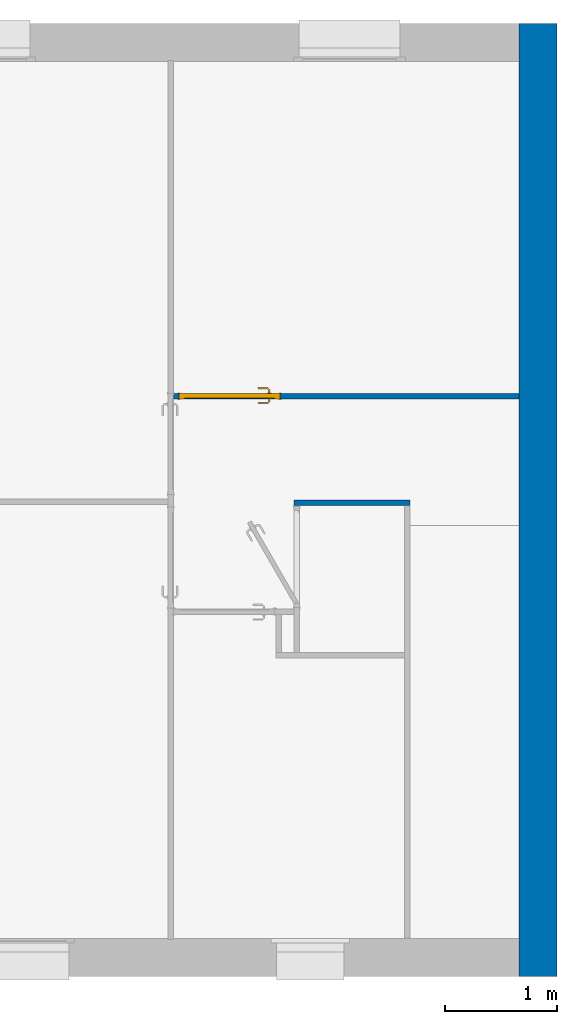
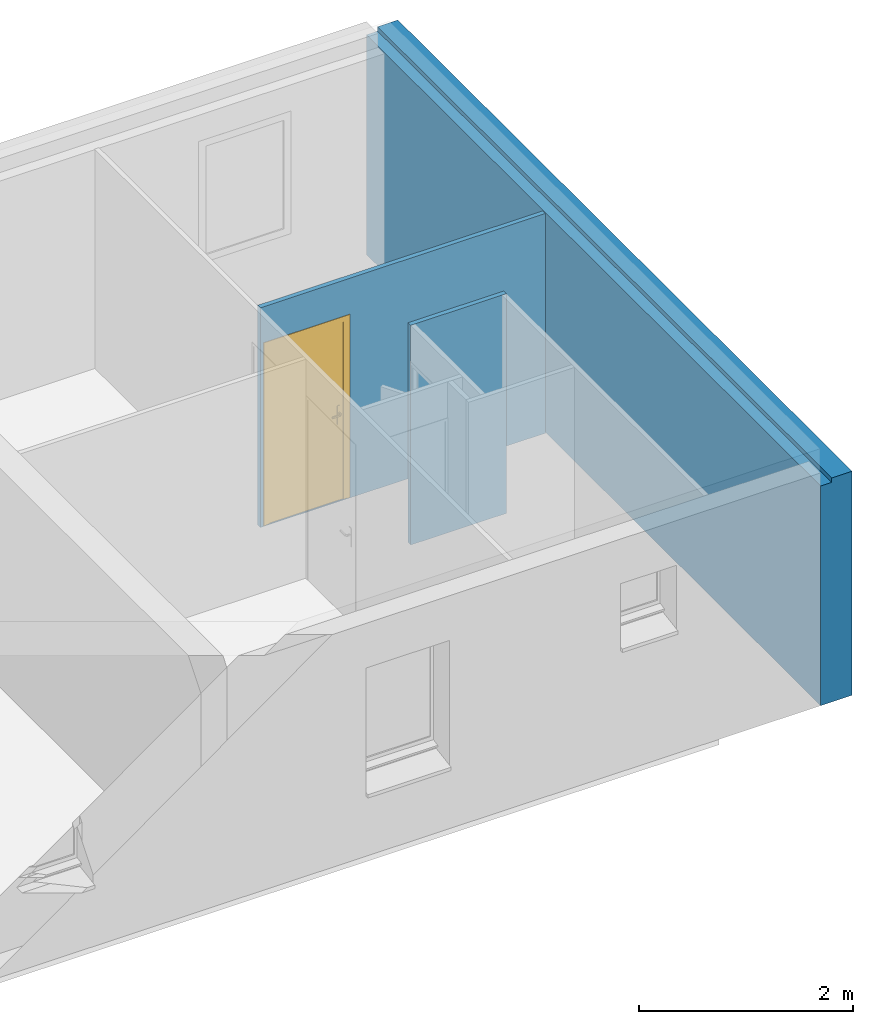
# One storey, part 10 of 13: 3 walls, 1 door, 1 opening.
"""IFC2X3 building model written with IfcOpenShell, lengths in metres."""

from ifc_helpers import new_model, entity, si_unit, converted_unit, derived_unit, direction, frame, frame_2d, origin, place, context, subcontext, project, spatial, polyline, rectangle, extrude, clip, bounded_halfspace, faceted_brep, source, transform, mapped, material, material_list, layer, layer_set, layer_usage, type_object, type_shapes, element, fill, save


model = new_model("IFC2X3")

# Units and contexts
model_context = context("Model", 3, precision=1e-05, world=origin(), true_north=direction((6.12303176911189e-17, 1.0)))
body_context = subcontext(model_context, "Body", "Model", "MODEL_VIEW")
ifc_project = project(units=[si_unit("LENGTHUNIT", "METRE"), si_unit("AREAUNIT", "SQUARE_METRE"), si_unit("VOLUMEUNIT", "CUBIC_METRE"), converted_unit("PLANEANGLEUNIT", "DEGREE", entity("IfcRatioMeasure", 0.0174532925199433), si_unit("PLANEANGLEUNIT", "RADIAN"), dimensions=[0, 0, 0, 0, 0, 0, 0]), si_unit("MASSUNIT", "GRAM", prefix="KILO"), si_unit("TIMEUNIT", "SECOND"), si_unit("FREQUENCYUNIT", "HERTZ"), si_unit("THERMODYNAMICTEMPERATUREUNIT", "DEGREE_CELSIUS"), derived_unit("THERMALTRANSMITTANCEUNIT", [(si_unit("MASSUNIT", "GRAM", prefix="KILO"), 1), (si_unit("THERMODYNAMICTEMPERATUREUNIT", "KELVIN"), -1), (si_unit("TIMEUNIT", "SECOND"), -3)]), derived_unit("VOLUMETRICFLOWRATEUNIT", [(si_unit("LENGTHUNIT", "METRE"), 3), (si_unit("TIMEUNIT", "SECOND"), -1)]), si_unit("ELECTRICCURRENTUNIT", "AMPERE"), si_unit("ELECTRICVOLTAGEUNIT", "VOLT"), si_unit("POWERUNIT", "WATT"), si_unit("FORCEUNIT", "NEWTON", prefix="KILO"), si_unit("ILLUMINANCEUNIT", "LUX"), si_unit("LUMINOUSFLUXUNIT", "LUMEN"), si_unit("LUMINOUSINTENSITYUNIT", "CANDELA"), derived_unit("USERDEFINED", [(si_unit("MASSUNIT", "GRAM", prefix="KILO"), -1), (si_unit("LENGTHUNIT", "METRE"), -2), (si_unit("TIMEUNIT", "SECOND"), 3), (si_unit("LUMINOUSFLUXUNIT", "LUMEN"), 1)]), derived_unit("LINEARVELOCITYUNIT", [(si_unit("LENGTHUNIT", "METRE"), 1), (si_unit("TIMEUNIT", "SECOND"), -1)]), si_unit("PRESSUREUNIT", "PASCAL"), derived_unit("USERDEFINED", [(si_unit("LENGTHUNIT", "METRE"), -2), (si_unit("MASSUNIT", "GRAM", prefix="KILO"), 1), (si_unit("TIMEUNIT", "SECOND"), -2)])], contexts=[model_context])

# Site, building, storey
site_placement = place(None, origin())
site = spatial("IfcSite", under=ifc_project, at=site_placement, Name="Surface", CompositionType="ELEMENT")
building_placement = place(site_placement, origin())
building = spatial("IfcBuilding", under=site, at=building_placement, CompositionType="ELEMENT")
storey_placement = place(building_placement, frame((0.0, 0.0, 2.74)))
storey = spatial("IfcBuildingStorey", under=building, at=storey_placement, Name="Plan étage", CompositionType="ELEMENT", Elevation=2.74)

# Wall, opening, door
ifc_material_1 = material(Name="Maçonnerie - Isolant(1)")
ifc_layer_1 = layer(ifc_material_1, 0.05)
ifc_layer_set_1 = layer_set([ifc_layer_1], Name="Mur de base:Int. plâtre 50 mm")
ifc_layer_usage_1 = layer_usage(ifc_layer_set_1, "AXIS2", "NEGATIVE", 0.025)
wall_type_1 = type_object("IfcWallType", Name="Mur de base:Int. plâtre 50 mm", PredefinedType="STANDARD", material=ifc_layer_set_1)
wall_1_placement = place(storey_placement, frame((-1.65608881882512, 2.35925578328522, -0.00999999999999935)))
wall_1 = element("IfcWallStandardCase", 1, at=wall_1_placement, inside=storey, type_object=wall_type_1, material=ifc_layer_usage_1, Name="Mur de base:Int. plâtre 50 mm", ObjectType="Mur de base:Int. plâtre 50 mm", context=body_context, shape_type="SweptSolid", body=[
    extrude(rectangle(XDim=3.07999999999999, YDim=0.05, at=frame_2d((1.53999999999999, 0.0), x_axis=(-1.0, 0.0))), origin(), (0.0, 0.0, 1.0), 2.51),
])
opening_placement = place(wall_1_placement, frame((0.0499999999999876, -0.025, 0.00999999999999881)))
opening = element("IfcOpeningElement", 2, at=opening_placement, cuts=wall_1, Name="Int. Simple:PP (0.83m x 2.04m):1", ObjectType="Opening", context=body_context, shape_type="SweptSolid", body=[
    extrude(rectangle(XDim=2.075, YDim=0.9, at=frame_2d((1.0375, 0.45), x_axis=(1.0, 0.0))), frame((0.0, 0.0, 0.0), z_axis=(0.0, 1.0, 0.0), x_axis=(0.0, 0.0, 1.0)), (0.0, 0.0, 1.0), 0.05),
])
ifc_material_2 = material(Name="Finition Peinture - Blanc satiné")
ifc_material_3 = material(Name="Bois - Panneau de porte")
ifc_material_4 = material(Name="Bois - Cadre de porte")
ifc_material_list_1 = material_list([ifc_material_2, ifc_material_3, ifc_material_4])
ifc_material_list_2 = material_list([ifc_material_2, ifc_material_3, ifc_material_4])
door_style = type_object("IfcDoorStyle", Name="PP (0.83m x 2.04m)", ConstructionType="NOTDEFINED", OperationType="SINGLE_SWING_LEFT", ParameterTakesPrecedence=False, Sizeable=False, material=ifc_material_list_2)
shared_shape = source(origin(), body_context, "Body", "Brep", [
    faceted_brep([(0.105352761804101, -0.00500000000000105, 0.866003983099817), (0.115, -0.00500000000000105, 0.870000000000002), (0.114999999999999, -0.00500000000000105, 1.08), (0.1053527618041, -0.00500000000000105, 1.08399601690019), (0.0949999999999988, -0.00500000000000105, 1.08535898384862), (0.0846472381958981, -0.00500000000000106, 1.08399601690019), (0.0749999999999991, -0.00500000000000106, 1.08), (0.0750000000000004, -0.00500000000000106, 0.870000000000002), (0.0846472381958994, -0.00500000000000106, 0.866003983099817), (0.0950000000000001, -0.00500000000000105, 0.86464101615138), (0.1053527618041, 0.0, 1.08399601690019), (0.114999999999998, 0.0, 1.08), (0.115, 0.0, 0.870000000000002), (0.105352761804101, 0.0, 0.866003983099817), (0.0950000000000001, 0.0, 0.86464101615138), (0.0846472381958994, 0.0, 0.866003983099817), (0.0749999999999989, 0.0, 0.870000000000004), (0.0749999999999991, 0.0, 1.08), (0.0846472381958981, 0.0, 1.08399601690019), (0.0949999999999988, 0.0, 1.08535898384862)], [[[0, 1, 2, 3, 4, 5, 6, 7, 8, 9]], [[10, 11, 12, 13, 14, 15, 16, 17, 18, 19]], [[16, 15, 8, 7]], [[8, 15, 14, 9]], [[14, 13, 0, 9]], [[13, 12, 1, 0]], [[2, 1, 12, 11]], [[11, 10, 3, 2]], [[3, 10, 19, 4]], [[19, 18, 5, 4]], [[18, 17, 6, 5]], [[7, 6, 17, 16]]]),
    faceted_brep([(0.105352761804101, 0.0399999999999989, 0.866003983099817), (0.115, 0.0399999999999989, 0.870000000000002), (0.114999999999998, 0.0399999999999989, 1.08), (0.105352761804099, 0.0399999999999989, 1.08399601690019), (0.0949999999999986, 0.0399999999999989, 1.08535898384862), (0.084647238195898, 0.0399999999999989, 1.08399601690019), (0.0749999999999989, 0.0399999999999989, 1.08), (0.0750000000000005, 0.0399999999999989, 0.870000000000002), (0.0846472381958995, 0.0399999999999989, 0.866003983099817), (0.0950000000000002, 0.0399999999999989, 0.86464101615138), (0.105352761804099, 0.0449999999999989, 1.08399601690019), (0.114999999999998, 0.0449999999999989, 1.08), (0.115, 0.0449999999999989, 0.870000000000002), (0.105352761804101, 0.0449999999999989, 0.866003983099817), (0.0950000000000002, 0.0449999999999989, 0.86464101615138), (0.0846472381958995, 0.0449999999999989, 0.866003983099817), (0.0749999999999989, 0.0449999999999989, 0.870000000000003), (0.0749999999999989, 0.0449999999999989, 1.08), (0.084647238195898, 0.0449999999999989, 1.08399601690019), (0.0949999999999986, 0.0449999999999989, 1.08535898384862)], [[[0, 1, 2, 3, 4, 5, 6, 7, 8, 9]], [[10, 11, 12, 13, 14, 15, 16, 17, 18, 19]], [[11, 10, 3, 2]], [[3, 10, 19, 4]], [[19, 18, 5, 4]], [[18, 17, 6, 5]], [[7, 6, 17, 16]], [[16, 15, 8, 7]], [[8, 15, 14, 9]], [[14, 13, 0, 9]], [[13, 12, 1, 0]], [[2, 1, 12, 11]]]),
    faceted_brep([(0.0929747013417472, -0.00500000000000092, 1.00778044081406), (0.0970252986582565, -0.0050000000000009, 1.00778044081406), (0.101000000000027, -0.00500000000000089, 1.00699999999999), (0.101000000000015, -0.00500000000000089, 0.993000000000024), (0.0970252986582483, -0.0050000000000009, 0.992219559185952), (0.0929747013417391, -0.00500000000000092, 0.99221955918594), (0.0889999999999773, -0.00500000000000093, 0.992999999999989), (0.0889999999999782, -0.00500000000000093, 1.007), (0.0889999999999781, -0.0326509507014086, 1.007), (0.092974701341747, -0.0310045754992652, 1.00778044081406), (0.10902358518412, -0.0470534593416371, 1.00778044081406), (0.110701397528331, -0.0430028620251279, 1.00778044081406), (0.0970252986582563, -0.0293267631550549, 1.00778044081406), (0.101000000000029, -0.0276803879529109, 1.007), (0.101000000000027, -0.0276803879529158, 0.993000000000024), (0.0970252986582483, -0.0293267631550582, 0.992219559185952), (0.110701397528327, -0.0430028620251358, 0.992219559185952), (0.109023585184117, -0.047053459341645, 0.99221955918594), (0.0929747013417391, -0.0310045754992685, 0.99221955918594), (0.0889999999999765, -0.0326509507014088, 0.992999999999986), (0.107377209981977, -0.0510281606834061, 1.007), (0.112347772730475, -0.0390281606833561, 1.007), (0.112347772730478, -0.0390281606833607, 0.993000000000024), (0.107377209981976, -0.0510281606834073, 0.992999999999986), (0.195018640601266, -0.0510281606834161, 0.992999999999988), (0.195018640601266, -0.0470534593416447, 0.99221955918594), (0.195018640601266, -0.0430028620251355, 0.992219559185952), (0.195018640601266, -0.039028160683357, 0.993000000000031), (0.195018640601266, -0.0390281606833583, 1.007), (0.195018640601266, -0.0430028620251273, 1.00778044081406), (0.195018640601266, -0.0470534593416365, 1.00778044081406), (0.195018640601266, -0.0510281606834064, 1.00699999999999), (0.147307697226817, -0.0510281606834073, 1.007), (0.152860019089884, -0.045028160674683, 1.0078786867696), (0.15368320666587, -0.039028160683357, 1.007), (0.153683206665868, -0.0390281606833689, 0.993000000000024), (0.152860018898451, -0.0450281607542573, 0.992121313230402), (0.147307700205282, -0.0510281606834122, 0.992999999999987)], [[[0, 1, 2, 3, 4, 5, 6, 7]], [[8, 9, 0, 7]], [[9, 10, 11, 12, 1, 0]], [[12, 13, 2, 1]], [[3, 2, 13, 14]], [[14, 15, 4, 3]], [[15, 16, 17, 18, 5, 4]], [[18, 19, 6, 5]], [[7, 6, 19, 8]], [[20, 10, 9, 8]], [[11, 21, 13, 12]], [[14, 13, 21, 22]], [[22, 16, 15, 14]], [[17, 23, 19, 18]], [[8, 19, 23, 20]], [[24, 25, 26, 27, 28, 29, 30, 31]], [[32, 30, 33]], [[31, 30, 32]], [[10, 20, 32]], [[33, 34, 11]], [[21, 11, 34]], [[34, 29, 28]], [[30, 29, 33]], [[29, 34, 33]], [[10, 32, 33]], [[10, 33, 11]], [[22, 21, 34, 28, 27, 35]], [[35, 26, 36]], [[37, 36, 25]], [[22, 35, 16]], [[35, 27, 26]], [[24, 37, 25]], [[23, 17, 37]], [[37, 17, 36]], [[17, 16, 36]], [[16, 35, 36]], [[25, 36, 26]], [[20, 23, 37, 24, 31, 32]]]),
    faceted_brep([(0.0929747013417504, 0.0449999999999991, 1.00778044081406), (0.0889999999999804, 0.044999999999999, 1.007), (0.0889999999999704, 0.044999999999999, 0.992999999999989), (0.0929747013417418, 0.0449999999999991, 0.99221955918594), (0.0970252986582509, 0.0449999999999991, 0.992219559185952), (0.10100000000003, 0.0449999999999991, 0.993000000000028), (0.101000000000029, 0.0449999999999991, 1.007), (0.0970252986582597, 0.0449999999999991, 1.00778044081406), (0.10100000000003, 0.067485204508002, 0.993000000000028), (0.10100000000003, 0.0674852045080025, 1.007), (0.0970252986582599, 0.0691315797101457, 1.00778044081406), (0.110838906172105, 0.0829451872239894, 1.00778044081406), (0.109161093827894, 0.0869957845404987, 1.00778044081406), (0.0929747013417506, 0.070809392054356, 1.00778044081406), (0.0889999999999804, 0.0724557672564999, 1.007), (0.0889999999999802, 0.072455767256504, 0.992999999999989), (0.0929747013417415, 0.0708093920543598, 0.99221955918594), (0.109161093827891, 0.0869957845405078, 0.99221955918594), (0.110838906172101, 0.0829451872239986, 0.992219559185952), (0.0970252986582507, 0.0691315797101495, 0.992219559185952), (0.112485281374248, 0.0789704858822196, 0.993000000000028), (0.112485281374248, 0.0789704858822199, 1.007), (0.107514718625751, 0.0909704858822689, 1.007), (0.107514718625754, 0.090970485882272, 0.992999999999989), (0.195045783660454, 0.0789704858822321, 0.993000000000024), (0.195045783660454, 0.0829451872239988, 0.992219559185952), (0.195045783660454, 0.086995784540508, 0.99221955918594), (0.195045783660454, 0.0909704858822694, 0.992999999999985), (0.195045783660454, 0.0909704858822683, 1.007), (0.195045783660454, 0.0869957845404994, 1.00778044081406), (0.195045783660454, 0.0829451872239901, 1.00778044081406), (0.195045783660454, 0.0789704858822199, 1.007), (0.153765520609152, 0.0789704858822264, 0.993000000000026), (0.153765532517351, 0.0789704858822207, 1.007), (0.152942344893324, 0.0849704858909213, 1.0078786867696), (0.147445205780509, 0.0909704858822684, 1.007), (0.147445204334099, 0.0909704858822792, 0.992999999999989), (0.152942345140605, 0.0849704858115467, 0.992121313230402)], [[[0, 1, 2, 3, 4, 5, 6, 7]], [[6, 5, 8, 9]], [[9, 10, 7, 6]], [[10, 11, 12, 13, 0, 7]], [[13, 14, 1, 0]], [[2, 1, 14, 15]], [[15, 16, 3, 2]], [[16, 17, 18, 19, 4, 3]], [[19, 8, 5, 4]], [[9, 8, 20, 21]], [[21, 11, 10, 9]], [[12, 22, 14, 13]], [[15, 14, 22, 23]], [[23, 17, 16, 15]], [[18, 20, 8, 19]], [[24, 25, 26, 27, 28, 29, 30, 31]], [[21, 20, 32, 24, 31, 33]], [[33, 30, 34]], [[35, 34, 29]], [[21, 33, 11]], [[33, 31, 30]], [[28, 35, 29]], [[22, 12, 35]], [[35, 12, 34]], [[12, 11, 34]], [[11, 33, 34]], [[29, 34, 30]], [[22, 35, 28, 27, 36, 23]], [[36, 26, 37]], [[27, 26, 36]], [[17, 23, 36]], [[37, 32, 18]], [[20, 18, 32]], [[32, 25, 24]], [[26, 25, 37]], [[25, 32, 37]], [[17, 36, 37]], [[17, 37, 18]]]),
    faceted_brep([(0.034999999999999, 0.04, 2.04), (0.865, 0.04, 2.04), (0.864999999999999, 0.04, 0.0), (0.034999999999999, 0.04, 0.0), (0.034999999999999, 0.0, 2.04), (0.034999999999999, 0.0, 0.0), (0.864999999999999, 0.0, 0.0), (0.865, 0.0, 2.04)], [[[0, 1, 2, 3]], [[4, 5, 6, 7]], [[1, 0, 4, 7]], [[2, 1, 7, 6]], [[3, 2, 6, 5]], [[0, 3, 5, 4]]]),
    faceted_brep([(0.0, 0.0, 0.0), (0.0, 0.050000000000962, 0.0), (0.0499999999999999, 0.050000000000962, 0.0), (0.0499999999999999, 0.040000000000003, 0.0), (0.0349999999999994, 0.040000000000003, 0.0), (0.0349999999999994, 0.0, 0.0), (0.0, 0.0, 2.07500000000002), (0.0, 0.050000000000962, 2.07500000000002), (0.900000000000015, 0.050000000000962, 2.07500000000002), (0.900000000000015, 0.050000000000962, 0.0), (0.85, 0.050000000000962, 0.0), (0.85, 0.050000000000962, 2.025), (0.0500000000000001, 0.050000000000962, 2.025), (0.05, 0.040000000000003, 2.025), (0.85, 0.040000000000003, 2.025), (0.85, 0.040000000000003, 0.0), (0.865, 0.040000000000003, 0.0), (0.865, 0.040000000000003, 2.04), (0.0349999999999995, 0.040000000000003, 2.04), (0.0349999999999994, 0.0, 2.04), (0.865, 0.0, 2.04), (0.865, 0.0, 0.0), (0.900000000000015, 0.0, 0.0), (0.900000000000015, 0.0, 2.07500000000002)], [[[0, 1, 2, 3, 4, 5]], [[1, 0, 6, 7]], [[2, 1, 7, 8, 9, 10, 11, 12]], [[3, 2, 12, 13]], [[4, 3, 13, 14, 15, 16, 17, 18]], [[5, 4, 18, 19]], [[0, 5, 19, 20, 21, 22, 23, 6]], [[8, 23, 22, 9]], [[22, 21, 16, 15, 10, 9]], [[14, 11, 10, 15]], [[20, 17, 16, 21]], [[7, 6, 23, 8]], [[13, 12, 11, 14]], [[19, 18, 17, 20]]]),
    faceted_brep([(0.0149999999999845, 0.050000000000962, 0.0), (-0.0150000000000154, 0.050000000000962, 0.0), (-0.0150000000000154, 0.055000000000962, 0.0), (0.0149999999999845, 0.055000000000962, 0.0), (0.0149999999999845, 0.050000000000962, 2.06000000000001), (0.884999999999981, 0.050000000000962, 2.06000000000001), (0.88499999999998, 0.050000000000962, 0.0), (0.91499999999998, 0.050000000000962, 0.0), (0.91499999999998, 0.050000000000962, 2.09000000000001), (-0.0150000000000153, 0.050000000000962, 2.09000000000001), (-0.0150000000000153, 0.055000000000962, 2.09000000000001), (0.91499999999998, 0.055000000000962, 2.09000000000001), (0.91499999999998, 0.055000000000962, 0.0), (0.88499999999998, 0.055000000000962, 0.0), (0.88499999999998, 0.055000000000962, 2.06000000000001), (0.0149999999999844, 0.055000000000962, 2.06000000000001)], [[[0, 1, 2, 3]], [[1, 0, 4, 5, 6, 7, 8, 9]], [[2, 1, 9, 10]], [[3, 2, 10, 11, 12, 13, 14, 15]], [[0, 3, 15, 4]], [[6, 13, 12, 7]], [[5, 14, 13, 6]], [[11, 8, 7, 12]], [[10, 9, 8, 11]], [[4, 15, 14, 5]]]),
    faceted_brep([(-0.0150000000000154, -0.005, 0.0), (0.0149999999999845, -0.005, 0.0), (0.0149999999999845, -0.005, 2.06000000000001), (0.884999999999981, -0.005, 2.06000000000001), (0.88499999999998, -0.005, 0.0), (0.91499999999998, -0.005, 0.0), (0.91499999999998, -0.005, 2.09000000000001), (-0.0150000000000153, -0.005, 2.09000000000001), (-0.0150000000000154, 0.0, 0.0), (-0.0150000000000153, 0.0, 2.09000000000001), (0.0149999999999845, 0.0, 0.0), (0.91499999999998, 0.0, 2.09000000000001), (0.91499999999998, 0.0, 0.0), (0.88499999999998, 0.0, 0.0), (0.88499999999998, 0.0, 2.06000000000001), (0.0149999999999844, 0.0, 2.06000000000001)], [[[0, 1, 2, 3, 4, 5, 6, 7]], [[8, 0, 7, 9]], [[10, 8, 9, 11, 12, 13, 14, 15]], [[1, 10, 15, 2]], [[3, 14, 13, 4]], [[11, 6, 5, 12]], [[9, 7, 6, 11]], [[2, 15, 14, 3]], [[4, 13, 12, 5]], [[1, 0, 8, 10]]]),
])
type_shapes(door_style, [shared_shape])
door_placement = place(opening_placement, frame((0.9, 0.0500000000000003, 0.0), z_axis=(0.0, 0.0, 1.0), x_axis=(-1.0, 0.0, 0.0)))
door = element("IfcDoor", 3, at=door_placement, inside=storey, type_object=door_style, material=ifc_material_list_1, Name="Int. Simple:PP (0.83m x 2.04m)", ObjectType="PP (0.83m x 2.04m)", OverallHeight=2.075, OverallWidth=0.9, context=body_context, shape_type="MappedRepresentation", body=[
    mapped(shared_shape, transform((0.0, 0.0, 0.0), scale=1.0)),
])
fill(opening, door)

# Walls
ifc_layer_usage_2 = layer_usage(ifc_layer_set_1, "AXIS2", "NEGATIVE", 0.025)
wall_2_placement = place(storey_placement, frame((-0.581088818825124, 1.40925578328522, -0.00999999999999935)))
element("IfcWallStandardCase", 4, at=wall_2_placement, inside=storey, type_object=wall_type_1, material=ifc_layer_usage_2, Name="Mur de base:Int. plâtre 50 mm", ObjectType="Mur de base:Int. plâtre 50 mm", context=body_context, shape_type="SweptSolid", body=[
    extrude(rectangle(XDim=1.03499999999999, YDim=0.05, at=frame_2d((0.517499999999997, 0.0), x_axis=(-1.0, 0.0))), origin(), (0.0, 0.0, 1.0), 2.51),
])
ifc_material_5 = material(Name="Maçonnerie - Enduit")
ifc_layer_2 = layer(ifc_material_5, 0.02)
ifc_material_6 = material(Name="Maçonnerie - Parpaing")
ifc_layer_3 = layer(ifc_material_6, 0.2)
ifc_material_7 = material(Name="Maçonnerie - Isolant")
ifc_layer_4 = layer(ifc_material_7, 0.11)
ifc_material_8 = material(Name="Maçonnerie - Isolant 1")
ifc_layer_5 = layer(ifc_material_8, 0.01)
ifc_layer_set_2 = layer_set([ifc_layer_2, ifc_layer_3, ifc_layer_4, ifc_layer_5], Name="Mur de base:Mur de base Ext. Parpaing 20 + Isolant 12")
ifc_layer_usage_3 = layer_usage(ifc_layer_set_2, "AXIS2", "NEGATIVE", 0.17)
wall_type_2 = type_object("IfcWallType", Name="Mur de base:Mur de base Ext. Parpaing 20 + Isolant 12", PredefinedType="STANDARD", material=ifc_layer_set_2)
wall_3_placement = place(storey_placement, frame((1.59391118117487, 5.68425578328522, 0.0), z_axis=(0.0, 0.0, 1.0), x_axis=(0.0, -1.0, 0.0)))
element("IfcWallStandardCase", 5, at=wall_3_placement, inside=storey, type_object=wall_type_2, material=ifc_layer_usage_3, Name="Mur de base:Mur de base Ext. Parpaing 20 + Isolant 12", ObjectType="Mur de base:Mur de base Ext. Parpaing 20 + Isolant 12", context=body_context, shape_type="Clipping", body=[
    clip(extrude(rectangle(XDim=8.50000000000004, YDim=0.34, at=frame_2d((4.25000000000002, 0.0), x_axis=(-1.0, 0.0))), origin(), (0.0, 0.0, 1.0), 2.56), bounded_halfspace(frame((0.0, -0.17, 2.51), z_axis=(0.0, 0.0, 1.0), x_axis=(0.0, 1.0, 0.0)), False, frame((0.0, -0.17, 2.51)), polyline([(0.0, 0.0), (8.50000000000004, 0.0), (8.50000000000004, 0.12), (0.0, 0.12), (0.0, 0.0)]))),
])

save(model, "model.ifc")
